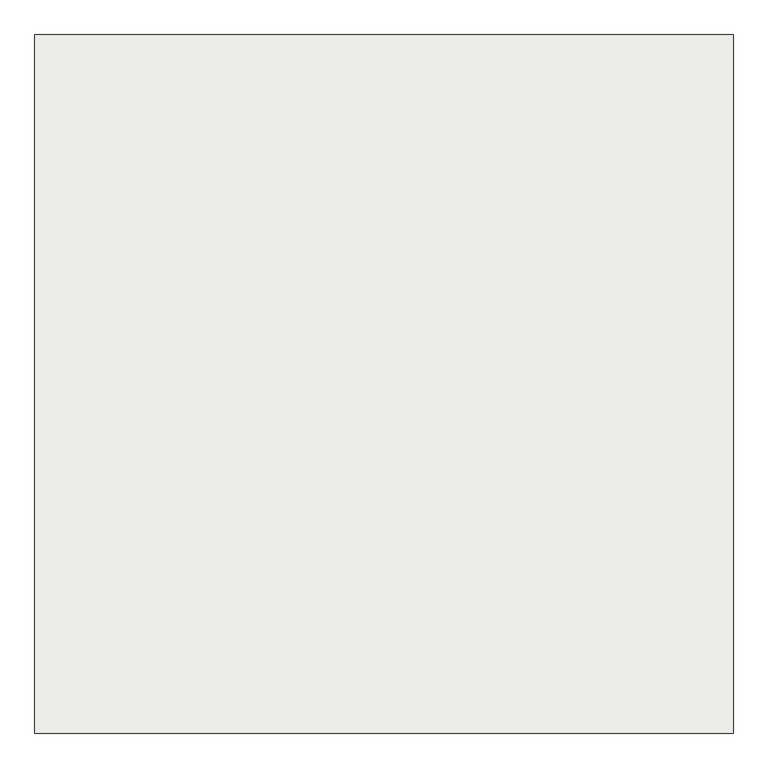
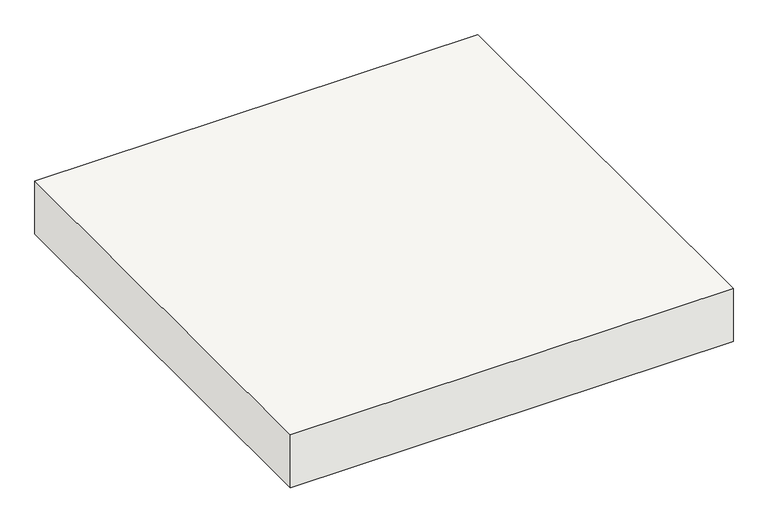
"""IFC4 building model written with IfcOpenShell, lengths in millimetres: roof geometry, Basic Roof:27_RO_hout_underlayment_189_171-18:69921 : Basic Roof:27_RO_hout_underlayment_189_171-18:69921."""

from ifc_helpers import new_model, si_unit, origin, origin_with_axes, place, context, project, spatial, polyline, outline, extrude, source, transform, mapped, element, save


def roof_0605da9c(model_context):
    return source(origin(), model_context, "Body", "SweptSolid", [
        extrude(outline(polyline([(36193.347385, -7415.0), (34693.347385, -7415.0), (34693.347385, -5915.0), (36193.347385, -5915.0), (36193.347385, -7415.0)])), origin_with_axes(), (0.0, 0.0, 1.0), 189.0),
    ])


if __name__ == "__main__":
    model = new_model("IFC4")
    model_context = context("Model", 3, world=origin())
    ifc_project = project(units=[si_unit("LENGTHUNIT", "METRE", prefix="MILLI")], contexts=[model_context])
    site = spatial("IfcSite", under=ifc_project)
    building = spatial("IfcBuilding", under=site)
    placement = place(None, origin())
    roof_shape = roof_0605da9c(model_context)
    element("IfcRoof", 1, ObjectType="Basic Roof:27_RO_hout_underlayment_189_171-18:69921 : Basic Roof:27_RO_hout_underlayment_189_171-18:69921", at=placement, inside=building, context=model_context, shape_type="MappedRepresentation", body=[
        mapped(roof_shape, transform((0.0, 0.0, 0.0), x_axis=(1.0, 0.0, 0.0), y_axis=(0.0, 1.0, 0.0), z_axis=(0.0, 0.0, 1.0))),
    ])
    save(model, "model.ifc")
